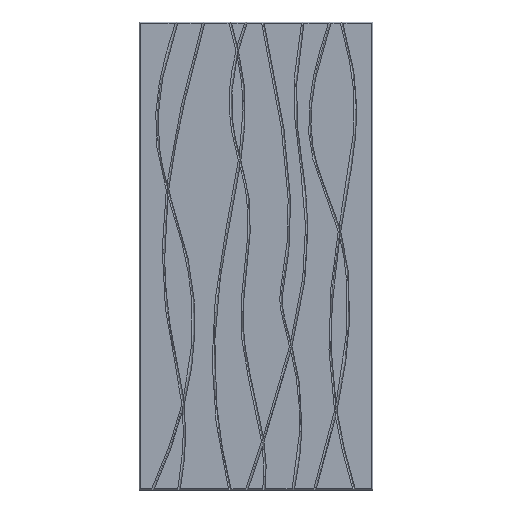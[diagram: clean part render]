
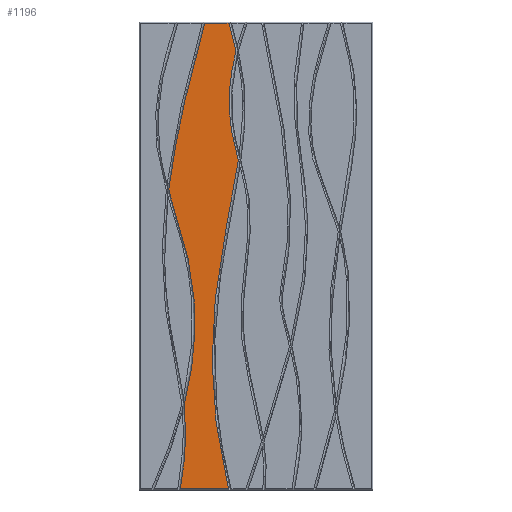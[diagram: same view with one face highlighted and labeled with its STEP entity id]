
A CAD part, top view. The second image highlights one B-rep face of the part: STEP entity #1196.
In plain terms, the highlighted planar face has unit normal (0, 0, 1).
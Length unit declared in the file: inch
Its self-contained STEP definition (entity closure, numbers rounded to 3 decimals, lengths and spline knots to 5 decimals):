
#17=LINE('',#1784,#69);
#18=LINE('',#1804,#70);
#69=VECTOR('',#1351,0.3937);
#70=VECTOR('',#1352,0.3937);
#120=PLANE('',#1302);
#168=FACE_OUTER_BOUND('',#258,.T.);
#258=EDGE_LOOP('',(#793,#794,#795,#796,#797,#798,#799,#800));
#354=B_SPLINE_CURVE_WITH_KNOTS('',3,(#1649,#1650,#1651,#1652,#1653,#1654),
 .UNSPECIFIED.,.F.,.F.,(4,1,1,4),(45.6964,63.39144,75.23164,
87.04374),.UNSPECIFIED.);
#363=B_SPLINE_CURVE_WITH_KNOTS('',3,(#1779,#1780,#1781,#1782),
 .UNSPECIFIED.,.F.,.F.,(4,4),(84.37796,96.29531),
 .UNSPECIFIED.);
#364=B_SPLINE_CURVE_WITH_KNOTS('',3,(#1786,#1787,#1788,#1789,#1790,#1791),
 .UNSPECIFIED.,.F.,.F.,(4,1,1,4),(-98.04732,-80.1835,-62.10437,
-35.0496),.UNSPECIFIED.);
#365=B_SPLINE_CURVE_WITH_KNOTS('',3,(#1793,#1794,#1795,#1796,#1797),
 .UNSPECIFIED.,.F.,.F.,(4,1,4),(-21.16046,-10.94304,-3.27274),
 .UNSPECIFIED.);
#366=B_SPLINE_CURVE_WITH_KNOTS('',3,(#1799,#1800,#1801,#1802),
 .UNSPECIFIED.,.F.,.F.,(4,4),(-6.50727,-0.19183),
 .UNSPECIFIED.);
#367=B_SPLINE_CURVE_WITH_KNOTS('',3,(#1805,#1806,#1807,#1808,#1809,#1810),
 .UNSPECIFIED.,.F.,.F.,(4,2,4),(0.18722,13.21136,37.20193),
 .UNSPECIFIED.);
#486=VERTEX_POINT('',#1634);
#487=VERTEX_POINT('',#1642);
#495=VERTEX_POINT('',#1778);
#496=VERTEX_POINT('',#1783);
#497=VERTEX_POINT('',#1785);
#498=VERTEX_POINT('',#1792);
#499=VERTEX_POINT('',#1798);
#500=VERTEX_POINT('',#1803);
#590=EDGE_CURVE('',#486,#487,#354,.T.);
#601=EDGE_CURVE('',#487,#495,#363,.T.);
#602=EDGE_CURVE('',#496,#495,#17,.T.);
#603=EDGE_CURVE('',#496,#497,#364,.T.);
#604=EDGE_CURVE('',#497,#498,#365,.T.);
#605=EDGE_CURVE('',#498,#499,#366,.T.);
#606=EDGE_CURVE('',#500,#499,#18,.T.);
#607=EDGE_CURVE('',#500,#486,#367,.T.);
#793=ORIENTED_EDGE('',*,*,#590,.T.);
#794=ORIENTED_EDGE('',*,*,#601,.T.);
#795=ORIENTED_EDGE('',*,*,#602,.F.);
#796=ORIENTED_EDGE('',*,*,#603,.T.);
#797=ORIENTED_EDGE('',*,*,#604,.T.);
#798=ORIENTED_EDGE('',*,*,#605,.T.);
#799=ORIENTED_EDGE('',*,*,#606,.F.);
#800=ORIENTED_EDGE('',*,*,#607,.T.);
#1196=ADVANCED_FACE('',(#168),#120,.T.);
#1302=AXIS2_PLACEMENT_3D('',#1777,#1349,#1350);
#1349=DIRECTION('center_axis',(0.,0.,1.));
#1350=DIRECTION('ref_axis',(1.,0.,0.));
#1351=DIRECTION('',(-1.,0.,0.));
#1352=DIRECTION('',(1.,0.,0.));
#1634=CARTESIAN_POINT('',(7.11769,62.56913,0.5));
#1642=CARTESIAN_POINT('',(10.31642,18.56929,0.5));
#1649=CARTESIAN_POINT('Ctrl Pts',(7.11769,62.56913,0.5));
#1650=CARTESIAN_POINT('Ctrl Pts',(8.43942,58.08845,0.5));
#1651=CARTESIAN_POINT('Ctrl Pts',(11.32328,49.89911,0.5));
#1652=CARTESIAN_POINT('Ctrl Pts',(13.05612,35.05522,0.5));
#1653=CARTESIAN_POINT('Ctrl Pts',(11.79858,24.49213,0.5));
#1654=CARTESIAN_POINT('Ctrl Pts',(10.31642,18.56929,0.5));
#1777=CARTESIAN_POINT('Origin',(25.02073,49.01925,0.5));
#1778=CARTESIAN_POINT('',(9.49914,1.26925,0.5));
#1779=CARTESIAN_POINT('Ctrl Pts',(10.31642,18.56929,0.5));
#1780=CARTESIAN_POINT('Ctrl Pts',(10.78473,13.85136,0.5));
#1781=CARTESIAN_POINT('Ctrl Pts',(10.7496,8.30957,0.5));
#1782=CARTESIAN_POINT('Ctrl Pts',(9.49914,1.26925,0.5));
#1783=CARTESIAN_POINT('',(19.35777,1.26925,0.5));
#1784=CARTESIAN_POINT('',(13.02073,1.26925,0.5));
#1785=CARTESIAN_POINT('',(21.4025,68.52269,0.5));
#1786=CARTESIAN_POINT('Ctrl Pts',(19.35777,1.26925,0.5));
#1787=CARTESIAN_POINT('Ctrl Pts',(17.26484,9.83136,0.5));
#1788=CARTESIAN_POINT('Ctrl Pts',(15.34291,25.39479,0.5));
#1789=CARTESIAN_POINT('Ctrl Pts',(17.09929,48.02206,0.5));
#1790=CARTESIAN_POINT('Ctrl Pts',(20.26598,61.15686,0.5));
#1791=CARTESIAN_POINT('Ctrl Pts',(21.4025,68.52269,0.5));
#1792=CARTESIAN_POINT('',(20.91397,91.1043,0.5));
#1793=CARTESIAN_POINT('Ctrl Pts',(21.4025,68.52269,0.5));
#1794=CARTESIAN_POINT('Ctrl Pts',(20.54273,71.70441,0.5));
#1795=CARTESIAN_POINT('Ctrl Pts',(18.99379,77.94847,0.5));
#1796=CARTESIAN_POINT('Ctrl Pts',(19.80325,86.70386,0.5));
#1797=CARTESIAN_POINT('Ctrl Pts',(20.91397,91.1043,0.5));
#1798=CARTESIAN_POINT('',(19.48536,96.76925,0.5));
#1799=CARTESIAN_POINT('Ctrl Pts',(20.91397,91.1043,0.5));
#1800=CARTESIAN_POINT('Ctrl Pts',(20.51145,92.87953,0.5));
#1801=CARTESIAN_POINT('Ctrl Pts',(20.0319,94.74863,0.5));
#1802=CARTESIAN_POINT('Ctrl Pts',(19.48536,96.76925,0.5));
#1803=CARTESIAN_POINT('',(14.51129,96.76925,0.5));
#1804=CARTESIAN_POINT('',(37.02073,96.76925,0.5));
#1805=CARTESIAN_POINT('Ctrl Pts',(14.51129,96.76925,0.5));
#1806=CARTESIAN_POINT('Ctrl Pts',(13.29084,92.60923,0.5));
#1807=CARTESIAN_POINT('Ctrl Pts',(12.22064,88.40404,0.5));
#1808=CARTESIAN_POINT('Ctrl Pts',(9.4503,76.77526,0.5));
#1809=CARTESIAN_POINT('Ctrl Pts',(7.981,69.63286,0.5));
#1810=CARTESIAN_POINT('Ctrl Pts',(7.11769,62.56913,0.5));
